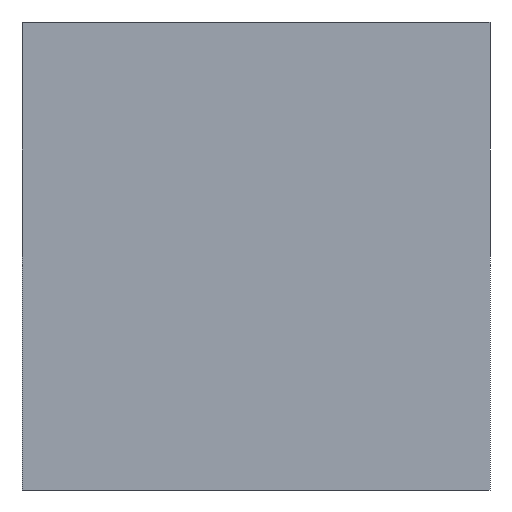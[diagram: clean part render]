
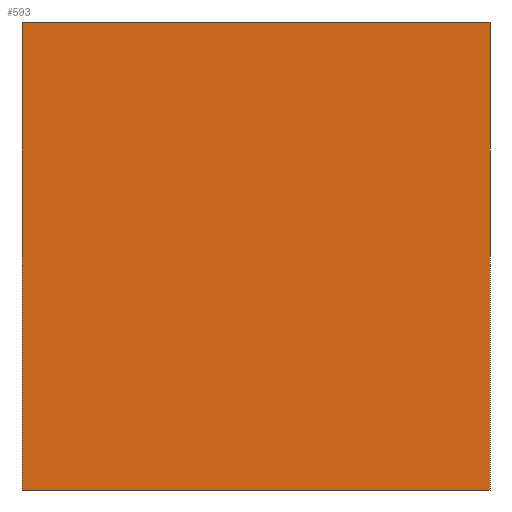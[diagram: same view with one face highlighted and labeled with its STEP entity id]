
A CAD part, front view. The second image highlights one B-rep face of the part: STEP entity #593.
In plain terms, the highlighted planar face has unit normal (0, -1, 0).
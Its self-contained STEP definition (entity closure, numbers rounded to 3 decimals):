
#37 = EDGE_CURVE ( 'NONE', #517, #585, #420, .T. ) ;
#49 = DIRECTION ( 'NONE',  ( 0., 0., -1. ) ) ;
#82 = EDGE_CURVE ( 'NONE', #587, #517, #184, .T. ) ;
#120 = VECTOR ( 'NONE', #470, 1000. ) ;
#131 = ORIENTED_EDGE ( 'NONE', *, *, #82, .F. ) ;
#141 = DIRECTION ( 'NONE',  ( 1., 0., 0. ) ) ;
#145 = CARTESIAN_POINT ( 'NONE',  ( 0., 0., 900. ) ) ;
#178 = LINE ( 'NONE', #428, #272 ) ;
#184 = LINE ( 'NONE', #320, #403 ) ;
#199 = DIRECTION ( 'NONE',  ( 0., -1., 0. ) ) ;
#244 = FACE_OUTER_BOUND ( 'NONE', #405, .T. ) ;
#246 = EDGE_CURVE ( 'NONE', #469, #585, #178, .T. ) ;
#247 = EDGE_CURVE ( 'NONE', #587, #469, #327, .T. ) ;
#255 = AXIS2_PLACEMENT_3D ( 'NONE', #425, #199, #141 ) ;
#270 = CARTESIAN_POINT ( 'NONE',  ( -900., 0., 900. ) ) ;
#272 = VECTOR ( 'NONE', #49, 1000. ) ;
#275 = CARTESIAN_POINT ( 'NONE',  ( 0., 0., 0. ) ) ;
#288 = CARTESIAN_POINT ( 'NONE',  ( -900., 0., 0. ) ) ;
#320 = CARTESIAN_POINT ( 'NONE',  ( 0., 0., 900. ) ) ;
#324 = DIRECTION ( 'NONE',  ( -1., 0., 0. ) ) ;
#327 = LINE ( 'NONE', #618, #120 ) ;
#368 = ORIENTED_EDGE ( 'NONE', *, *, #246, .T. ) ;
#369 = DIRECTION ( 'NONE',  ( 0., 0., -1. ) ) ;
#403 = VECTOR ( 'NONE', #369, 1000. ) ;
#405 = EDGE_LOOP ( 'NONE', ( #562, #131, #615, #368 ) ) ;
#420 = LINE ( 'NONE', #573, #457 ) ;
#425 = CARTESIAN_POINT ( 'NONE',  ( 0., 0., 900. ) ) ;
#428 = CARTESIAN_POINT ( 'NONE',  ( -900., 0., 900. ) ) ;
#457 = VECTOR ( 'NONE', #324, 1000. ) ;
#469 = VERTEX_POINT ( 'NONE', #270 ) ;
#470 = DIRECTION ( 'NONE',  ( -1., 0., 0. ) ) ;
#482 = PLANE ( 'NONE',  #255 ) ;
#517 = VERTEX_POINT ( 'NONE', #275 ) ;
#562 = ORIENTED_EDGE ( 'NONE', *, *, #37, .F. ) ;
#573 = CARTESIAN_POINT ( 'NONE',  ( 0., 0., 0. ) ) ;
#585 = VERTEX_POINT ( 'NONE', #288 ) ;
#587 = VERTEX_POINT ( 'NONE', #145 ) ;
#593 = ADVANCED_FACE ( 'NONE', ( #244 ), #482, .T. ) ;
#615 = ORIENTED_EDGE ( 'NONE', *, *, #247, .T. ) ;
#618 = CARTESIAN_POINT ( 'NONE',  ( 0., 0., 900. ) ) ;
